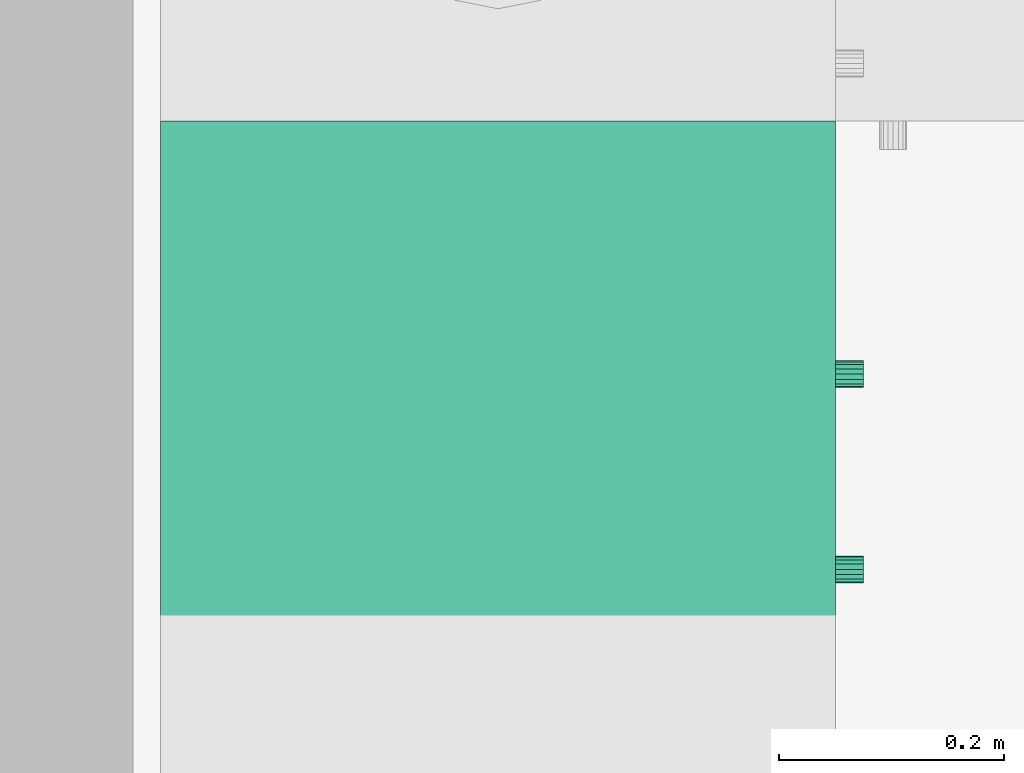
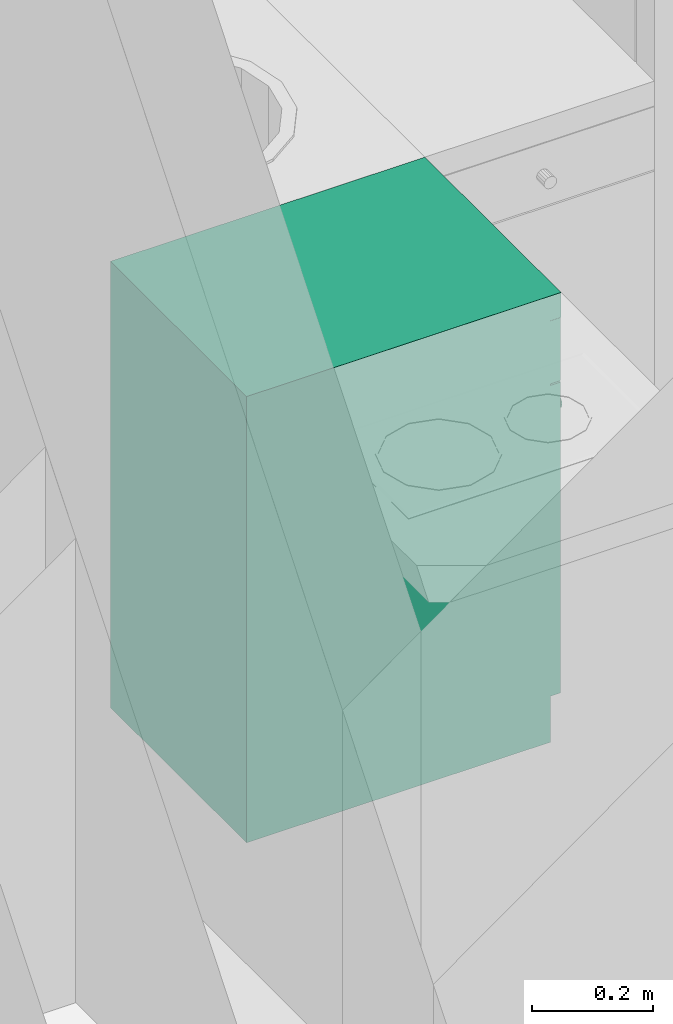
# One storey, part 62 of 172: 1 flow terminal.
"""IFC2X3 building model written with IfcOpenShell, lengths in millimetres."""

from ifc_helpers import new_model, entity, si_unit, converted_unit, money_unit, direction, frame, origin_with_axes, place, context, subcontext, project, spatial, faceted_brep, source, transform, mapped, material, material_list, type_object, element, save


model = new_model("IFC2X3")

# Units and contexts
model_context = context("Model", 3, precision=1e-05, world=origin_with_axes(), true_north=direction((0.0, 1.0)))
body_context = subcontext(model_context, "Body", "Model", "MODEL_VIEW")
ifc_project = project(units=[si_unit("LENGTHUNIT", "METRE", prefix="MILLI"), si_unit("AREAUNIT", "SQUARE_METRE"), si_unit("VOLUMEUNIT", "CUBIC_METRE"), converted_unit("PLANEANGLEUNIT", "DEGREE", entity("IfcPlaneAngleMeasure", 0.0174532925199), si_unit("PLANEANGLEUNIT", "RADIAN"), dimensions=[0, 0, 0, 0, 0, 0, 0]), si_unit("SOLIDANGLEUNIT", "STERADIAN"), money_unit("USD"), converted_unit("TIMEUNIT", "Year", entity("IfcTimeMeasure", 31556926.0), si_unit("TIMEUNIT", "SECOND"), dimensions=[0, 0, 0, 0, 0, 0, 0]), si_unit("MASSUNIT", "GRAM"), si_unit("THERMODYNAMICTEMPERATUREUNIT", "DEGREE_CELSIUS"), si_unit("LUMINOUSINTENSITYUNIT", "LUMEN")], contexts=[model_context])

# Site, building, storey
site_placement = place(None, origin_with_axes())
site = spatial("IfcSite", under=ifc_project, at=site_placement, Name="Site", CompositionType="ELEMENT")
building_placement = place(site_placement, origin_with_axes())
building = spatial("IfcBuilding", under=site, at=building_placement, Name="Building", CompositionType="ELEMENT")
storey_placement = place(building_placement, frame((0.0, 0.0, 3200.0), z_axis=(0.0, 0.0, 1.0), x_axis=(1.0, 0.0, 0.0)))
storey = spatial("IfcBuildingStorey", under=building, at=storey_placement, Name="3KORRUS", CompositionType="ELEMENT", Elevation=3200.0)

# Flow terminal
ifc_material = material(Name="Background")
ifc_material_list = material_list([ifc_material])
sanitary_terminal_type = type_object("IfcSanitaryTerminalType", Name="Cabinet Base Single Door 19", PredefinedType="SINK")
shared_shape = source(origin_with_axes(), body_context, "Body", "Brep", [
    faceted_brep([(-20.0, 20.0, 710.0), (-20.0, 20.0, 730.0), (-430.0, 20.0, 730.0), (-430.0, 20.0, 710.0), (-20.0, 580.0, 710.0), (-20.0, 580.0, 730.0), (-430.0, 580.0, 730.0), (-430.0, 580.0, 710.0)], [[[0, 1, 2, 3]], [[4, 5, 1, 0]], [[1, 5, 6, 2]], [[3, 2, 6, 7]], [[0, 3, 7, 4]], [[7, 6, 5, 4]]]),
    faceted_brep([(0.0, 20.0, 0.0), (0.0, 20.0, 90.0), (-450.0, 20.0, 90.0), (-450.0, 20.0, 0.0), (0.0, 600.0, 0.0), (0.0, 600.0, 90.0), (-450.0, 600.0, 90.0), (-450.0, 600.0, 0.0)], [[[0, 1, 2, 3]], [[4, 5, 1, 0]], [[1, 5, 6, 2]], [[3, 2, 6, 7]], [[0, 3, 7, 4]], [[7, 6, 5, 4]]]),
    faceted_brep([(0.0, 20.0, 830.0), (0.0, 20.0, 850.0), (-20.0, 20.0, 850.0), (-20.0, 20.0, 830.0), (0.0, 600.0, 830.0), (0.0, 600.0, 850.0), (-20.0, 600.0, 850.0), (-430.0, 600.0, 850.0), (-450.0, 600.0, 850.0), (-450.0, 20.0, 850.0), (-430.0, 20.0, 850.0), (-430.0, 20.0, 830.0), (-450.0, 20.0, 830.0), (-450.0, 600.0, 830.0), (-430.0, 600.0, 830.0), (-20.0, 600.0, 830.0)], [[[0, 1, 2, 3]], [[4, 5, 1, 0]], [[1, 5, 6, 7, 8, 9, 10, 2]], [[3, 2, 10, 11]], [[0, 3, 11, 12, 13, 14, 15, 4]], [[15, 6, 5, 4]], [[14, 7, 6, 15]], [[13, 8, 7, 14]], [[12, 9, 8, 13]], [[11, 10, 9, 12]]]),
    faceted_brep([(0.0, 20.0, 90.0), (0.0, 20.0, 110.0), (-20.0, 20.0, 110.0), (-20.0, 20.0, 90.0), (0.0, 600.0, 90.0), (0.0, 600.0, 110.0), (-20.0, 600.0, 110.0), (-430.0, 600.0, 110.0), (-450.0, 600.0, 110.0), (-450.0, 20.0, 110.0), (-430.0, 20.0, 110.0), (-430.0, 20.0, 90.0), (-450.0, 20.0, 90.0), (-450.0, 600.0, 90.0), (-430.0, 600.0, 90.0), (-20.0, 600.0, 90.0)], [[[0, 1, 2, 3]], [[4, 5, 1, 0]], [[1, 5, 6, 7, 8, 9, 10, 2]], [[3, 2, 10, 11]], [[0, 3, 11, 12, 13, 14, 15, 4]], [[15, 6, 5, 4]], [[14, 7, 6, 15]], [[13, 8, 7, 14]], [[12, 9, 8, 13]], [[11, 10, 9, 12]]]),
    faceted_brep([(0.0, 20.0, 110.0), (0.0, 20.0, 830.0), (-20.0, 20.0, 830.0), (-20.0, 20.0, 110.0), (0.0, 600.0, 110.0), (0.0, 600.0, 830.0), (-450.0, 600.0, 830.0), (-450.0, 20.0, 830.0), (-430.0, 20.0, 830.0), (-430.0, 580.0, 830.0), (-20.0, 580.0, 830.0), (-20.0, 580.0, 110.0), (-430.0, 580.0, 110.0), (-430.0, 20.0, 110.0), (-450.0, 20.0, 110.0), (-450.0, 600.0, 110.0)], [[[0, 1, 2, 3]], [[4, 5, 1, 0]], [[1, 5, 6, 7, 8, 9, 10, 2]], [[3, 2, 10, 11]], [[0, 3, 11, 12, 13, 14, 15, 4]], [[15, 6, 5, 4]], [[14, 7, 6, 15]], [[13, 8, 7, 14]], [[12, 9, 8, 13]], [[11, 10, 9, 12]]]),
    faceted_brep([(-430.0, 20.0, 385.0), (-430.0, 20.0, 405.0), (-430.0, 580.0, 405.0), (-430.0, 580.0, 385.0), (-20.0, 20.0, 385.0), (-20.0, 20.0, 405.0), (-20.0, 580.0, 405.0), (-20.0, 580.0, 385.0)], [[[0, 1, 2, 3]], [[4, 5, 1, 0]], [[1, 5, 6, 2]], [[3, 2, 6, 7]], [[0, 3, 7, 4]], [[7, 6, 5, 4]]]),
    faceted_brep([(0.0, 0.0, 850.0), (0.0, 0.0, 900.0), (-450.0, 0.0, 900.0), (-450.0, 0.0, 850.0), (0.0, 600.0, 850.0), (0.0, 600.0, 900.0), (-450.0, 600.0, 900.0), (-450.0, 600.0, 850.0)], [[[0, 1, 2, 3]], [[4, 5, 1, 0]], [[1, 5, 6, 2]], [[3, 2, 6, 7]], [[0, 3, 7, 4]], [[7, 6, 5, 4]]]),
    faceted_brep([(-1.5, 20.0, 721.5), (-1.5, 0.0, 721.5), (-448.5, 0.0, 721.5), (-448.5, 20.0, 721.5), (-1.5, 20.0, 848.5), (-1.5, 0.0, 848.5), (-448.5, 0.0, 848.5), (-448.5, 20.0, 848.5)], [[[0, 1, 2, 3]], [[4, 5, 1, 0]], [[1, 5, 6, 2]], [[3, 2, 6, 7]], [[0, 3, 7, 4]], [[7, 6, 5, 4]]]),
    faceted_brep([(-220.408, 0.0, 773.913), (-225.0, 0.0, 773.0), (-229.592, 0.0, 773.913), (-233.485, 0.0, 776.515), (-236.087, 0.0, 780.408), (-237.0, 0.0, 785.0), (-236.087, 0.0, 789.592), (-233.485, 0.0, 793.485), (-229.592, 0.0, 796.087), (-225.0, 0.0, 797.0), (-220.408, 0.0, 796.087), (-216.515, 0.0, 793.485), (-213.913, 0.0, 789.592), (-213.0, 0.0, 785.0), (-213.913, 0.0, 780.408), (-216.515, 0.0, 776.515), (-220.408, -25.0, 773.913), (-225.0, -25.0, 773.0), (-229.592, -25.0, 773.913), (-233.485, -25.0, 776.515), (-236.087, -25.0, 780.408), (-237.0, -25.0, 785.0), (-236.087, -25.0, 789.592), (-233.485, -25.0, 793.485), (-229.592, -25.0, 796.087), (-225.0, -25.0, 797.0), (-220.408, -25.0, 796.087), (-216.515, -25.0, 793.485), (-213.913, -25.0, 789.592), (-213.0, -25.0, 785.0), (-213.913, -25.0, 780.408), (-216.515, -25.0, 776.515)], [[[0, 1, 2, 3, 4, 5, 6, 7, 8, 9, 10, 11, 12, 13, 14, 15]], [[0, 16, 17, 1]], [[1, 17, 18, 2]], [[2, 18, 19, 3]], [[3, 19, 20, 4]], [[4, 20, 21, 5]], [[5, 21, 22, 6]], [[6, 22, 23, 7]], [[7, 23, 24, 8]], [[8, 24, 25, 9]], [[9, 25, 26, 10]], [[10, 26, 27, 11]], [[11, 27, 28, 12]], [[12, 28, 29, 13]], [[13, 29, 30, 14]], [[14, 30, 31, 15]], [[15, 31, 16, 0]], [[16, 31, 30, 29, 28, 27, 26, 25, 24, 23, 22, 21, 20, 19, 18, 17]]]),
    faceted_brep([(-1.5, 20.0, 91.5), (-1.5, 0.0, 91.5), (-448.5, 0.0, 91.5), (-448.5, 20.0, 91.5), (-1.5, 20.0, 718.5), (-1.5, 0.0, 718.5), (-448.5, 0.0, 718.5), (-448.5, 20.0, 718.5)], [[[0, 1, 2, 3]], [[4, 5, 1, 0]], [[1, 5, 6, 2]], [[3, 2, 6, 7]], [[0, 3, 7, 4]], [[7, 6, 5, 4]]]),
    faceted_brep([(-409.587, 0.0, 636.908), (-410.5, 0.0, 641.5), (-409.587, 0.0, 646.092), (-406.985, 0.0, 649.985), (-403.092, 0.0, 652.587), (-398.5, 0.0, 653.5), (-393.908, 0.0, 652.587), (-390.015, 0.0, 649.985), (-387.413, 0.0, 646.092), (-386.5, 0.0, 641.5), (-387.413, 0.0, 636.908), (-390.015, 0.0, 633.015), (-393.908, 0.0, 630.413), (-398.5, 0.0, 629.5), (-403.092, 0.0, 630.413), (-406.985, 0.0, 633.015), (-409.587, -25.0, 636.908), (-410.5, -25.0, 641.5), (-409.587, -25.0, 646.092), (-406.985, -25.0, 649.985), (-403.092, -25.0, 652.587), (-398.5, -25.0, 653.5), (-393.908, -25.0, 652.587), (-390.015, -25.0, 649.985), (-387.413, -25.0, 646.092), (-386.5, -25.0, 641.5), (-387.413, -25.0, 636.908), (-390.015, -25.0, 633.015), (-393.908, -25.0, 630.413), (-398.5, -25.0, 629.5), (-403.092, -25.0, 630.413), (-406.985, -25.0, 633.015)], [[[0, 1, 2, 3, 4, 5, 6, 7, 8, 9, 10, 11, 12, 13, 14, 15]], [[0, 16, 17, 1]], [[1, 17, 18, 2]], [[2, 18, 19, 3]], [[3, 19, 20, 4]], [[4, 20, 21, 5]], [[5, 21, 22, 6]], [[6, 22, 23, 7]], [[7, 23, 24, 8]], [[8, 24, 25, 9]], [[9, 25, 26, 10]], [[10, 26, 27, 11]], [[11, 27, 28, 12]], [[12, 28, 29, 13]], [[13, 29, 30, 14]], [[14, 30, 31, 15]], [[15, 31, 16, 0]], [[16, 31, 30, 29, 28, 27, 26, 25, 24, 23, 22, 21, 20, 19, 18, 17]]]),
])
flow_terminal_placement = place(storey_placement, frame((12784.2564771, -9670.3690093, 0.0), z_axis=(0.0, 0.0, 1.0), x_axis=(0.0, 1.0, 0.0)))
element("IfcFlowTerminal", 1, at=flow_terminal_placement, inside=storey, type_object=sanitary_terminal_type, material=ifc_material_list, Name="FU - 007", context=body_context, shape_type="MappedRepresentation", body=[
    mapped(shared_shape, transform((0.0, 0.0, 0.0))),
])

save(model, "model.ifc")
